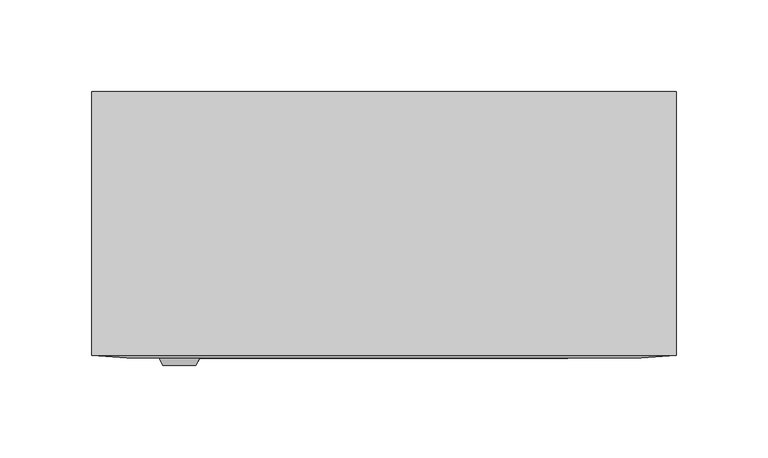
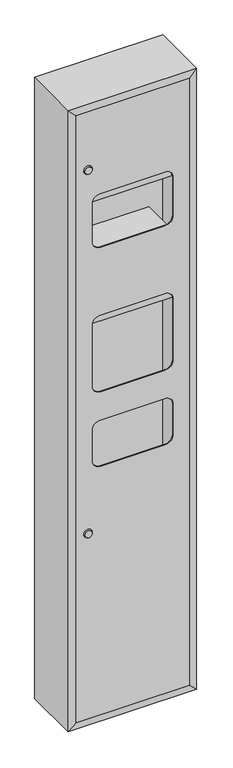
"""IFC4 building model written with IfcOpenShell, lengths in millimetres: proxy geometry, Hand Dryer_3 In 1_Metlam_Eco_Surface Mounted : 318w x 142d x 1625h (ML_ECO_73N1SM)."""

from ifc_helpers import new_model, si_unit, frame, origin, place, context, project, spatial, polyline, circle_curve, outline, extrude, faceted_brep, source, transform, mapped, element, save
from ifc_brep_helpers import plane_surface, revolved_surface, advanced_brep


def specialty_equipment_3da9acec(model_context):
    return source(origin(), model_context, "Body", "SolidModel", [
        advanced_brep(
        [(-159.0, 0.0, 1625.0), (159.0, 0.0, 1625.0), (159.0, 0.0, 0.0), (-159.0, 0.0, 0.0), (94.9941195, 0.0, 1063.5), (104.9941195, 0.0, 1063.5), (-159.0, -143.5, 0.0), (-159.0, -143.5, 1625.0), (159.0, -143.5, 0.0), (159.0, -143.5, 1625.0), (-157.0, -138.5, 1623.0), (-157.0, -2.0, 1623.0), (157.0, -2.0, 1623.0), (157.0, -138.5, 1623.0), (157.0, -2.0, 2.0), (157.0, -138.5, 2.0), (-157.0, -2.0, 2.0), (-157.0, -138.5, 2.0), (104.9941195, -2.0, 1063.5), (94.9941195, -2.0, 1063.5), (140.0, -145.0, 1606.5), (-140.0, -145.0, 1606.5), (-140.0, -145.0, 18.5), (140.0, -145.0, 18.5), (-100.0, -145.0, 1361.5), (-80.0, -145.0, 1381.5), (80.0, -145.0, 1381.5), (100.0, -145.0, 1361.5), (100.0, -145.0, 1261.5), (80.0, -145.0, 1241.5), (-80.0, -145.0, 1241.5), (-100.0, -145.0, 1261.5), (80.0, -145.0, 863.5), (-80.0, -145.0, 863.5), (-100.0, -145.0, 883.5), (-100.0, -145.0, 1043.5), (-80.0, -145.0, 1063.5), (80.0, -145.0, 1063.5), (100.0, -145.0, 1043.5), (100.0, -145.0, 883.5), (-100.0, -145.0, 688.5), (-100.0, -145.0, 768.5), (-80.0, -145.0, 788.5), (80.0, -145.0, 788.5), (100.0, -145.0, 768.5), (100.0, -145.0, 688.5), (80.0, -145.0, 668.5), (-80.0, -145.0, 668.5), (140.0, -143.5, 1606.5), (140.0, -143.5, 18.5), (-140.0, -143.5, 18.5), (-140.0, -143.5, 1606.5), (-80.0, -143.5, 1381.5), (-100.0, -143.5, 1361.5), (-100.0, -143.5, 1261.5), (-80.0, -143.5, 1241.5), (80.0, -143.5, 1241.5), (100.0, -143.5, 1261.5), (100.0, -143.5, 1361.5), (80.0, -143.5, 1381.5), (-80.0, -143.5, 863.5), (80.0, -143.5, 863.5), (100.0, -143.5, 883.5), (100.0, -143.5, 1043.5), (80.0, -143.5, 1063.5), (-80.0, -143.5, 1063.5), (-100.0, -143.5, 1043.5), (-100.0, -143.5, 883.5), (-100.0, -143.5, 768.5), (-100.0, -143.5, 688.5), (-80.0, -143.5, 668.5), (80.0, -143.5, 668.5), (100.0, -143.5, 688.5), (100.0, -143.5, 768.5), (80.0, -143.5, 788.5), (-80.0, -143.5, 788.5), (140.0, -138.5, 1606.5), (-140.0, -138.5, 1606.5), (-140.0, -138.5, 18.5), (140.0, -138.5, 18.5)],
        [
            (0, 1),
            (1, 2),
            (2, 3),
            (3, 0),
            (4, 5, circle_curve(frame((99.9941195, 0.0, 1063.5), z_axis=(0.0, -1.0, 0.0), x_axis=(1.0, 0.0, 0.0)), 5.0)),
            (5, 4, circle_curve(frame((99.9941195, 0.0, 1063.5), z_axis=(0.0, -1.0, 0.0), x_axis=(1.0, 0.0, 0.0)), 5.0)),
            (3, 6),
            (6, 7),
            (7, 0),
            (2, 8),
            (8, 6),
            (1, 9),
            (9, 8),
            (7, 9),
            (10, 11),
            (11, 12),
            (12, 13),
            (13, 10),
            (12, 14),
            (14, 15),
            (15, 13),
            (14, 16),
            (16, 17),
            (17, 15),
            (10, 17),
            (16, 11),
            (18, 19, circle_curve(frame((99.9941195, -2.0, 1063.5), z_axis=(0.0, 1.0, 0.0), x_axis=(1.0, 0.0, 0.0)), 5.0)),
            (19, 18, circle_curve(frame((99.9941195, -2.0, 1063.5), z_axis=(0.0, 1.0, 0.0), x_axis=(1.0, 0.0, 0.0)), 5.0)),
            (20, 21),
            (21, 22),
            (22, 23),
            (23, 20),
            (24, 25, circle_curve(frame((-80.0, -145.0, 1361.5), z_axis=(0.0, 1.0, 0.0), x_axis=(1.0, 0.0, 0.0)), 20.0)),
            (25, 26),
            (26, 27, circle_curve(frame((80.0, -145.0, 1361.5), z_axis=(0.0, 1.0, 0.0), x_axis=(1.0, 0.0, 0.0)), 20.0)),
            (27, 28),
            (28, 29, circle_curve(frame((80.0, -145.0, 1261.5), z_axis=(0.0, 1.0, 0.0), x_axis=(1.0, 0.0, 0.0)), 20.0)),
            (29, 30),
            (30, 31, circle_curve(frame((-80.0, -145.0, 1261.5), z_axis=(0.0, 1.0, 0.0), x_axis=(1.0, 0.0, 0.0)), 20.0)),
            (31, 24),
            (32, 33),
            (33, 34, circle_curve(frame((-80.0, -145.0, 883.5), z_axis=(0.0, 1.0, 0.0), x_axis=(1.0, 0.0, 0.0)), 20.0)),
            (34, 35),
            (35, 36, circle_curve(frame((-80.0, -145.0, 1043.5), z_axis=(0.0, 1.0, 0.0), x_axis=(1.0, 0.0, 0.0)), 20.0)),
            (36, 37),
            (37, 38, circle_curve(frame((80.0, -145.0, 1043.5), z_axis=(0.0, 1.0, 0.0), x_axis=(1.0, 0.0, 0.0)), 20.0)),
            (38, 39),
            (39, 32, circle_curve(frame((80.0, -145.0, 883.5), z_axis=(0.0, 1.0, 0.0), x_axis=(1.0, 0.0, 0.0)), 20.0)),
            (40, 41),
            (41, 42, circle_curve(frame((-80.0, -145.0, 768.5), z_axis=(0.0, 1.0, 0.0), x_axis=(1.0, 0.0, 0.0)), 20.0)),
            (42, 43),
            (43, 44, circle_curve(frame((80.0, -145.0, 768.5), z_axis=(0.0, 1.0, 0.0), x_axis=(1.0, 0.0, 0.0)), 20.0)),
            (44, 45),
            (45, 46, circle_curve(frame((80.0, -145.0, 688.5), z_axis=(0.0, 1.0, 0.0), x_axis=(1.0, 0.0, 0.0)), 20.0)),
            (46, 47),
            (47, 40, circle_curve(frame((-80.0, -145.0, 688.5), z_axis=(0.0, 1.0, 0.0), x_axis=(1.0, 0.0, 0.0)), 20.0)),
            (48, 49),
            (49, 50),
            (50, 51),
            (51, 48),
            (52, 53, circle_curve(frame((-80.0, -143.5, 1361.5), z_axis=(0.0, -1.0, 0.0), x_axis=(1.0, 0.0, 0.0)), 20.0)),
            (53, 54),
            (54, 55, circle_curve(frame((-80.0, -143.5, 1261.5), z_axis=(0.0, -1.0, 0.0), x_axis=(1.0, 0.0, 0.0)), 20.0)),
            (55, 56),
            (56, 57, circle_curve(frame((80.0, -143.5, 1261.5), z_axis=(0.0, -1.0, 0.0), x_axis=(1.0, 0.0, 0.0)), 20.0)),
            (57, 58),
            (58, 59, circle_curve(frame((80.0, -143.5, 1361.5), z_axis=(0.0, -1.0, 0.0), x_axis=(1.0, 0.0, 0.0)), 20.0)),
            (59, 52),
            (60, 61),
            (61, 62, circle_curve(frame((80.0, -143.5, 883.5), z_axis=(0.0, -1.0, 0.0), x_axis=(1.0, 0.0, 0.0)), 20.0)),
            (62, 63),
            (63, 64, circle_curve(frame((80.0, -143.5, 1043.5), z_axis=(0.0, -1.0, 0.0), x_axis=(1.0, 0.0, 0.0)), 20.0)),
            (64, 65),
            (65, 66, circle_curve(frame((-80.0, -143.5, 1043.5), z_axis=(0.0, -1.0, 0.0), x_axis=(1.0, 0.0, 0.0)), 20.0)),
            (66, 67),
            (67, 60, circle_curve(frame((-80.0, -143.5, 883.5), z_axis=(0.0, -1.0, 0.0), x_axis=(1.0, 0.0, 0.0)), 20.0)),
            (68, 69),
            (69, 70, circle_curve(frame((-80.0, -143.5, 688.5), z_axis=(0.0, -1.0, 0.0), x_axis=(1.0, 0.0, 0.0)), 20.0)),
            (70, 71),
            (71, 72, circle_curve(frame((80.0, -143.5, 688.5), z_axis=(0.0, -1.0, 0.0), x_axis=(1.0, 0.0, 0.0)), 20.0)),
            (72, 73),
            (73, 74, circle_curve(frame((80.0, -143.5, 768.5), z_axis=(0.0, -1.0, 0.0), x_axis=(1.0, 0.0, 0.0)), 20.0)),
            (74, 75),
            (75, 68, circle_curve(frame((-80.0, -143.5, 768.5), z_axis=(0.0, -1.0, 0.0), x_axis=(1.0, 0.0, 0.0)), 20.0)),
            (20, 9),
            (7, 21),
            (6, 22),
            (8, 23),
            (76, 77),
            (77, 78),
            (78, 79),
            (79, 76),
            (79, 49),
            (48, 76),
            (78, 50),
            (77, 51),
            (68, 41),
            (40, 69),
            (70, 47),
            (46, 71),
            (72, 45),
            (44, 73),
            (74, 43),
            (42, 75),
            (52, 25),
            (24, 53),
            (31, 54),
            (30, 55),
            (29, 56),
            (28, 57),
            (27, 58),
            (26, 59),
            (60, 33),
            (32, 61),
            (62, 39),
            (38, 63),
            (64, 37),
            (36, 65),
            (66, 35),
            (34, 67),
            (18, 5),
            (4, 19),
        ],
        [
            plane_surface(frame((-159.0, 0.0, 0.0), z_axis=(0.0, 1.0, 0.0), x_axis=(0.0, 0.0, 1.0))),
            plane_surface(frame((-159.0, -138.5, 1625.0), z_axis=(-1.0, 0.0, 0.0), x_axis=(0.0, 1.0, 0.0))),
            plane_surface(frame((-159.0, -138.5, 0.0), z_axis=(0.0, 0.0, -1.0), x_axis=(0.0, 1.0, 0.0))),
            plane_surface(frame((159.0, -138.5, 0.0), z_axis=(1.0, 0.0, 0.0), x_axis=(0.0, 1.0, 0.0))),
            plane_surface(frame((159.0, -138.5, 1625.0), z_axis=(0.0, 0.0, 1.0), x_axis=(0.0, 1.0, 0.0))),
            plane_surface(frame((-157.0, -138.5, 1623.0), z_axis=(0.0, 0.0, -1.0), x_axis=(0.0, 1.0, 0.0))),
            plane_surface(frame((157.0, -138.5, 1623.0), z_axis=(-1.0, 0.0, 0.0), x_axis=(0.0, 1.0, 0.0))),
            plane_surface(frame((157.0, -138.5, 2.0), z_axis=(0.0, 0.0, 1.0), x_axis=(0.0, 1.0, 0.0))),
            plane_surface(frame((-157.0, -138.5, 2.0), z_axis=(1.0, 0.0, 0.0), x_axis=(0.0, 1.0, 0.0))),
            plane_surface(frame((-159.0, -2.0, 0.0), z_axis=(0.0, -1.0, 0.0), x_axis=(0.0, 0.0, -1.0))),
            plane_surface(frame((0.0, -145.0, 812.5), z_axis=(0.0, -1.0, 0.0), x_axis=(-1.0, 0.0, 0.0))),
            plane_surface(frame((0.0, -143.5, 812.5), z_axis=(0.0, 1.0, 0.0), x_axis=(-1.0, 0.0, 0.0))),
            plane_surface(frame((0.0, -143.5, 1625.0), z_axis=(0.0, -0.9967290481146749, 0.08081586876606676), x_axis=(-1.0, 0.0, 0.0))),
            plane_surface(frame((-159.0, -143.5, 812.5), z_axis=(-0.07870248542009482, -0.9968981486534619, 0.0), x_axis=(0.0, 0.0, -1.0))),
            plane_surface(frame((0.0, -143.5, 0.0), z_axis=(0.0, -0.9967290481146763, -0.08081586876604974), x_axis=(1.0, 0.0, 0.0))),
            plane_surface(frame((159.0, -143.5, 812.5), z_axis=(0.0787024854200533, -0.9968981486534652, 0.0), x_axis=(0.0, 0.0, 1.0))),
            plane_surface(frame((140.0, -138.5, 1606.5), z_axis=(0.0, 1.0, 0.0), x_axis=(0.0, 0.0, 1.0))),
            plane_surface(frame((140.0, -143.5, 1606.5), z_axis=(-1.0, 0.0, 0.0), x_axis=(0.0, 1.0, 0.0))),
            plane_surface(frame((140.0, -143.5, 18.5), z_axis=(0.0, 0.0, 1.0), x_axis=(0.0, 1.0, 0.0))),
            plane_surface(frame((-140.0, -143.5, 18.5), z_axis=(1.0, 0.0, 0.0), x_axis=(0.0, 1.0, 0.0))),
            plane_surface(frame((-140.0, -143.5, 1606.5), z_axis=(0.0, 0.0, -1.0), x_axis=(0.0, 1.0, 0.0))),
            plane_surface(frame((-100.0, -145.0, 768.5), z_axis=(1.0, 0.0, 0.0), x_axis=(0.0, 1.0, 0.0))),
            plane_surface(frame((-80.0, -145.0, 668.5), z_axis=(0.0, 0.0, 1.0), x_axis=(0.0, 1.0, 0.0))),
            plane_surface(frame((100.0, -145.0, 688.5), z_axis=(-1.0, 0.0, 0.0), x_axis=(0.0, 1.0, 0.0))),
            plane_surface(frame((80.0, -145.0, 788.5), z_axis=(0.0, 0.0, -1.0), x_axis=(0.0, 1.0, 0.0))),
            revolved_surface(polyline([(-60.0, -145.0, 1361.5), (-60.0, -143.5, 1361.5)]), (-80.0, -138.5, 1361.5), (0.0, -1.0, 0.0)),
            plane_surface(frame((-100.0, -145.0, 1361.5), z_axis=(1.0, 0.0, 0.0), x_axis=(0.0, 1.0, 0.0))),
            revolved_surface(polyline([(-60.0, -145.0, 1261.5), (-60.0, -143.5, 1261.5)]), (-80.0, -138.5, 1261.5), (0.0, -1.0, 0.0)),
            plane_surface(frame((-80.0, -145.0, 1241.5), z_axis=(0.0, 0.0, 1.0), x_axis=(0.0, 1.0, 0.0))),
            revolved_surface(polyline([(100.0, -145.0, 1261.5), (100.0, -143.5, 1261.5)]), (80.0, -138.5, 1261.5), (0.0, -1.0, 0.0)),
            plane_surface(frame((100.0, -145.0, 1261.5), z_axis=(-1.0, 0.0, 0.0), x_axis=(0.0, 1.0, 0.0))),
            revolved_surface(polyline([(100.0, -145.0, 1361.5), (100.0, -143.5, 1361.5)]), (80.0, -138.5, 1361.5), (0.0, -1.0, 0.0)),
            plane_surface(frame((80.0, -145.0, 1381.5), z_axis=(0.0, 0.0, -1.0), x_axis=(0.0, 1.0, 0.0))),
            revolved_surface(polyline([(-60.0, -145.0, 768.5), (-60.0, -143.5, 768.5)]), (-80.0, -138.5, 768.5), (0.0, -1.0, 0.0)),
            revolved_surface(polyline([(-60.0, -145.0, 688.5), (-60.0, -143.5, 688.5)]), (-80.0, -138.5, 688.5), (0.0, -1.0, 0.0)),
            revolved_surface(polyline([(100.0, -145.0, 688.5), (100.0, -143.5, 688.5)]), (80.0, -138.5, 688.5), (0.0, -1.0, 0.0)),
            revolved_surface(polyline([(100.0, -145.0, 768.5), (100.0, -143.5, 768.5)]), (80.0, -138.5, 768.5), (0.0, -1.0, 0.0)),
            plane_surface(frame((-80.0, -145.0, 863.5), z_axis=(0.0, 0.0, 1.0), x_axis=(0.0, 1.0, 0.0))),
            plane_surface(frame((100.0, -145.0, 883.5), z_axis=(-1.0, 0.0, 0.0), x_axis=(0.0, 1.0, 0.0))),
            plane_surface(frame((80.0, -145.0, 1063.5), z_axis=(0.0, 0.0, -1.0), x_axis=(0.0, 1.0, 0.0))),
            plane_surface(frame((-100.0, -145.0, 1043.5), z_axis=(1.0, 0.0, 0.0), x_axis=(0.0, 1.0, 0.0))),
            revolved_surface(polyline([(-60.0, -145.0, 883.5), (-60.0, -143.5, 883.5)]), (-80.0, -138.5, 883.5), (0.0, -1.0, 0.0)),
            revolved_surface(polyline([(100.0, -145.0, 883.5), (100.0, -143.5, 883.5)]), (80.0, -138.5, 883.5), (0.0, -1.0, 0.0)),
            revolved_surface(polyline([(100.0, -145.0, 1043.5), (100.0, -143.5, 1043.5)]), (80.0, -138.5, 1043.5), (0.0, -1.0, 0.0)),
            revolved_surface(polyline([(-60.0, -145.0, 1043.5), (-60.0, -143.5, 1043.5)]), (-80.0, -138.5, 1043.5), (0.0, -1.0, 0.0)),
            revolved_surface(polyline([(104.9941195, -2.0, 1063.5), (104.9941195, 0.0, 1063.5)]), (99.9941195, 0.0, 1063.5), (0.0, -1.0, 0.0)),
        ],
        [
            (0, [[1, 2, 3, 4], [5, 6]]),
            (1, [[-4, 7, 8, 9]]),
            (2, [[-3, 10, 11, -7]]),
            (3, [[-2, 12, 13, -10]]),
            (4, [[-1, -9, 14, -12]]),
            (5, [[15, 16, 17, 18]]),
            (6, [[-17, 19, 20, 21]]),
            (7, [[-20, 22, 23, 24]]),
            (8, [[-15, 25, -23, 26]]),
            (9, [[-16, -26, -22, -19], [27, 28]]),
            (10, [[29, 30, 31, 32], [33, 34, 35, 36, 37, 38, 39, 40], [41, 42, 43, 44, 45, 46, 47, 48], [49, 50, 51, 52, 53, 54, 55, 56]]),
            (11, [[57, 58, 59, 60], [61, 62, 63, 64, 65, 66, 67, 68], [69, 70, 71, 72, 73, 74, 75, 76], [77, 78, 79, 80, 81, 82, 83, 84]]),
            (12, [[-29, 85, -14, 86]]),
            (13, [[-30, -86, -8, 87]]),
            (14, [[-31, -87, -11, 88]]),
            (15, [[-32, -88, -13, -85]]),
            (16, [[-18, -21, -24, -25], [89, 90, 91, 92]]),
            (17, [[-92, 93, -57, 94]]),
            (18, [[-91, 95, -58, -93]]),
            (19, [[-90, 96, -59, -95]]),
            (20, [[-89, -94, -60, -96]]),
            (21, [[97, -49, 98, -77]]),
            (22, [[99, -55, 100, -79]]),
            (23, [[101, -53, 102, -81]]),
            (24, [[103, -51, 104, -83]]),
            (25, [[105, -33, 106, -61]]),
            (26, [[-106, -40, 107, -62]]),
            (27, [[-107, -39, 108, -63]]),
            (28, [[-108, -38, 109, -64]]),
            (29, [[-109, -37, 110, -65]]),
            (30, [[-110, -36, 111, -66]]),
            (31, [[-111, -35, 112, -67]]),
            (32, [[-105, -68, -112, -34]]),
            (33, [[-97, -84, -104, -50]]),
            (34, [[-99, -78, -98, -56]]),
            (35, [[-101, -80, -100, -54]]),
            (36, [[-103, -82, -102, -52]]),
            (37, [[113, -41, 114, -69]]),
            (38, [[115, -47, 116, -71]]),
            (39, [[117, -45, 118, -73]]),
            (40, [[119, -43, 120, -75]]),
            (41, [[-113, -76, -120, -42]]),
            (42, [[-115, -70, -114, -48]]),
            (43, [[-117, -72, -116, -46]]),
            (44, [[-119, -74, -118, -44]]),
            (45, [[121, -5, 122, -27]]),
            (45, [[-121, -28, -122, -6]]),
        ],
    ),
        faceted_brep([(-100.0, -19.7385381, 1587.0), (100.0, -19.7385381, 1587.0), (100.0, -19.7385381, 1361.5), (-100.0, -19.7385381, 1361.5), (-100.0, -138.5, 1587.0), (-100.0, -138.5, 1361.5), (100.0, -138.5, 1361.5), (100.0, -138.5, 1587.0)], [[[0, 1, 2, 3]], [[4, 5, 6, 7]], [[0, 3, 5, 4]], [[3, 2, 6, 5]], [[2, 1, 7, 6]], [[1, 0, 4, 7]]]),
        advanced_brep(
        [(-120.3298003, -149.0, 1454.8885416), (-102.3298003, -149.0, 1454.8885416), (-122.3298003, -145.0, 1454.8885416), (-100.3298003, -145.0, 1454.8885416)],
        [
            (0, 1, circle_curve(frame((-111.3298003, -149.0, 1454.8885416), z_axis=(0.0, -1.0, 0.0), x_axis=(-1.0, 0.0, 0.0)), 9.0)),
            (1, 0, circle_curve(frame((-111.3298003, -149.0, 1454.8885416), z_axis=(0.0, -1.0, 0.0), x_axis=(1.0, 0.0, 0.0)), 9.0)),
            (2, 3, circle_curve(frame((-111.3298003, -145.0, 1454.8885416), z_axis=(0.0, 1.0, 0.0), x_axis=(1.0, 0.0, 0.0)), 11.0)),
            (3, 2, circle_curve(frame((-111.3298003, -145.0, 1454.8885416), z_axis=(0.0, 1.0, 0.0), x_axis=(-1.0, 0.0, 0.0)), 11.0)),
            (2, 0),
            (1, 3),
        ],
        [
            plane_surface(frame((-111.3298003, -149.0, 1454.8885416), z_axis=(0.0, -1.0, 0.0), x_axis=(0.0, 0.0, -1.0))),
            plane_surface(frame((-111.3298003, -145.0, 1454.8885416), z_axis=(0.0, 1.0, 0.0), x_axis=(0.0, 0.0, -1.0))),
            revolved_surface(polyline([(-102.3298003, -149.0, 1454.8885416), (-100.3298003, -145.0, 1454.8885416)]), (-111.3298003, -167.0, 1454.8885416), (0.0, 1.0, 0.0)),
            revolved_surface(polyline([(-120.3298003, -149.0, 1454.8885416), (-122.3298003, -145.0, 1454.8885416)]), (-111.3298003, -167.0, 1454.8885416), (0.0, 1.0, 0.0)),
        ],
        [
            (0, [[1, 2]]),
            (1, [[3, 4]]),
            (2, [[-3, 5, -2, 6]]),
            (3, [[-4, -6, -1, -5]]),
        ],
    ),
        advanced_brep(
        [(-120.3298003, -149.0, 503.6114584), (-102.3298003, -149.0, 503.6114584), (-122.3298003, -145.0, 503.6114584), (-100.3298003, -145.0, 503.6114584)],
        [
            (0, 1, circle_curve(frame((-111.3298003, -149.0, 503.6114584), z_axis=(0.0, -1.0, 0.0), x_axis=(-1.0, 0.0, 0.0)), 9.0)),
            (1, 0, circle_curve(frame((-111.3298003, -149.0, 503.6114584), z_axis=(0.0, -1.0, 0.0), x_axis=(1.0, 0.0, 0.0)), 9.0)),
            (2, 3, circle_curve(frame((-111.3298003, -145.0, 503.6114584), z_axis=(0.0, 1.0, 0.0), x_axis=(1.0, 0.0, 0.0)), 11.0)),
            (3, 2, circle_curve(frame((-111.3298003, -145.0, 503.6114584), z_axis=(0.0, 1.0, 0.0), x_axis=(-1.0, 0.0, 0.0)), 11.0)),
            (3, 1),
            (0, 2),
        ],
        [
            plane_surface(frame((-111.3298003, -149.0, 503.6114584), z_axis=(0.0, -1.0, 0.0), x_axis=(0.0, 0.0, -1.0))),
            plane_surface(frame((-111.3298003, -145.0, 503.6114584), z_axis=(0.0, 1.0, 0.0), x_axis=(0.0, 0.0, -1.0))),
            revolved_surface(polyline([(-120.3298003, -149.0, 503.6114584), (-122.3298003, -145.0, 503.6114584)]), (-111.3298003, -167.0, 503.6114584), (0.0, 1.0, 0.0)),
            revolved_surface(polyline([(-102.3298003, -149.0, 503.6114584), (-100.3298003, -145.0, 503.6114584)]), (-111.3298003, -167.0, 503.6114584), (0.0, 1.0, 0.0)),
        ],
        [
            (0, [[1, 2]]),
            (1, [[3, 4]]),
            (2, [[-4, 5, -1, 6]]),
            (3, [[-3, -6, -2, -5]]),
        ],
    ),
        extrude(outline(polyline([(112.0, -138.5), (-118.0, -138.5), (-118.0, -19.7385381), (112.0, -19.7385381), (112.0, -138.5)])), frame((0.0, 0.0, 1043.5), z_axis=(0.0, 0.0, 1.0), x_axis=(1.0, 0.0, 0.0)), (0.0, 0.0, 1.0), 160.5),
    ])


if __name__ == "__main__":
    model = new_model("IFC4")
    model_context = context("Model", 3, world=origin())
    ifc_project = project(units=[si_unit("LENGTHUNIT", "METRE", prefix="MILLI")], contexts=[model_context])
    site = spatial("IfcSite", under=ifc_project)
    building = spatial("IfcBuilding", under=site)
    placement = place(None, origin())
    specialty_equipment_shape = specialty_equipment_3da9acec(model_context)
    element("IfcBuildingElementProxy", 1, Name="Hand Dryer_3 In 1_Metlam_Eco_Surface Mounted : 318w x 142d x 1625h (ML_ECO_73N1SM)", ObjectType="Hand Dryer_3 In 1_Metlam_Eco_Surface Mounted : 318w x 142d x 1625h (ML_ECO_73N1SM)", at=placement, inside=building, context=model_context, shape_type="MappedRepresentation", body=[
        mapped(specialty_equipment_shape, transform((0.0, 0.0, 0.0), x_axis=(1.0, 0.0, 0.0), y_axis=(0.0, 1.0, 0.0), z_axis=(0.0, 0.0, 1.0))),
    ])
    save(model, "model.ifc")
